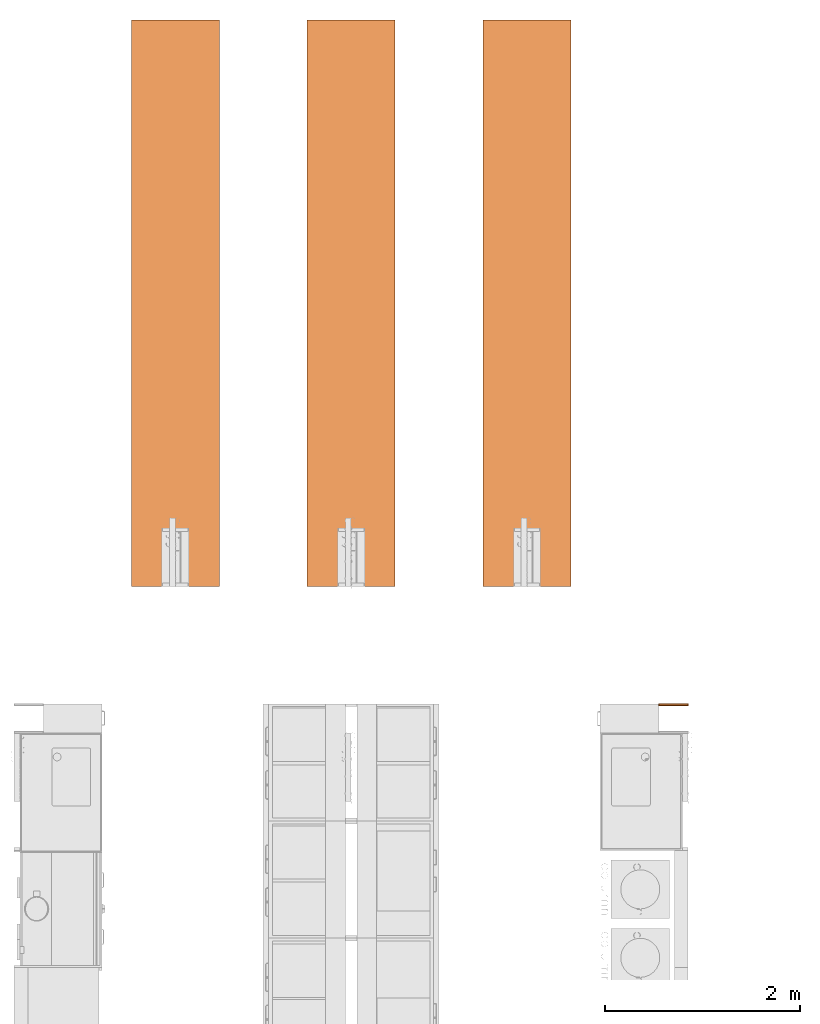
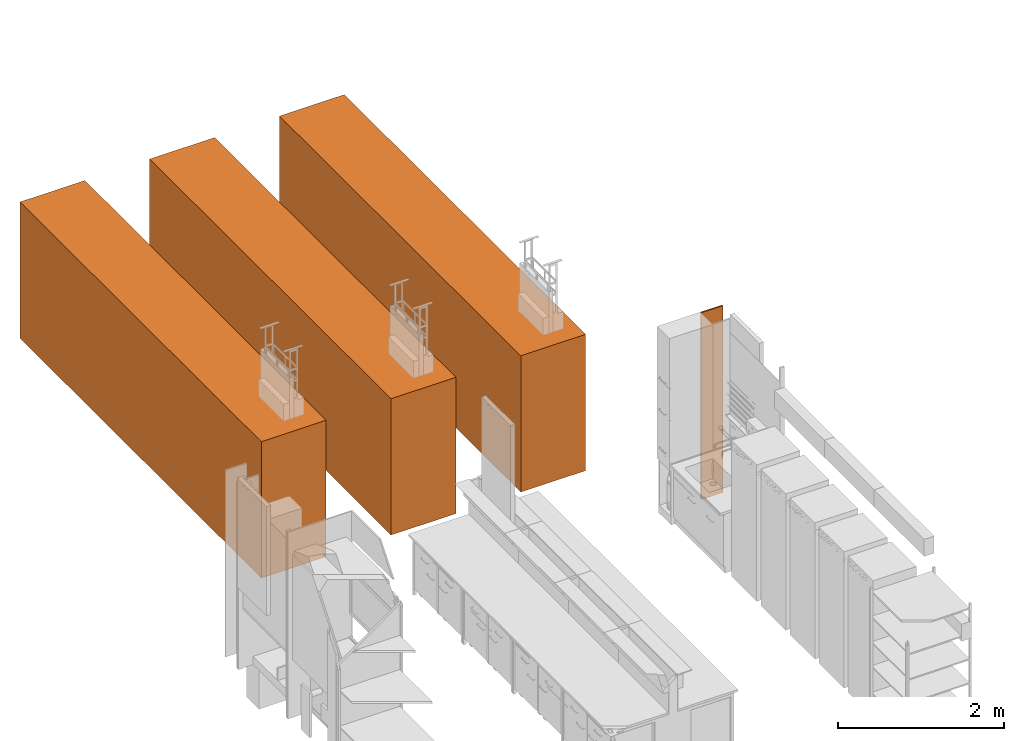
# One storey, part 26 of 43: 4 proxies.
"""IFC2X3 building model written with IfcOpenShell, lengths in metres."""

from ifc_helpers import new_model, entity, si_unit, converted_unit, derived_unit, direction, frame, origin, origin_2d_with_axis, place, context, subcontext, project, spatial, rectangle, extrude, face_set, surface_model, source, transform, mapped, material, type_object, type_shapes, element, save


model = new_model("IFC2X3")

# Units and contexts
model_context = context("Model", 3, precision=1e-05, world=origin(), true_north=direction((6.12303176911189e-17, 1.0)))
body_context = subcontext(model_context, "Body", "Model", "MODEL_VIEW")
ifc_project = project(units=[si_unit("LENGTHUNIT", "METRE"), si_unit("AREAUNIT", "SQUARE_METRE"), si_unit("VOLUMEUNIT", "CUBIC_METRE"), converted_unit("PLANEANGLEUNIT", "DEGREE", entity("IfcRatioMeasure", 0.0174532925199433), si_unit("PLANEANGLEUNIT", "RADIAN"), dimensions=[0, 0, 0, 0, 0, 0, 0]), si_unit("MASSUNIT", "GRAM", prefix="KILO"), derived_unit("MASSDENSITYUNIT", [(si_unit("MASSUNIT", "GRAM", prefix="KILO"), 1), (si_unit("LENGTHUNIT", "METRE"), -3)]), derived_unit("MOMENTOFINERTIAUNIT", [(si_unit("LENGTHUNIT", "METRE"), 4)]), si_unit("TIMEUNIT", "SECOND"), si_unit("FREQUENCYUNIT", "HERTZ"), si_unit("THERMODYNAMICTEMPERATUREUNIT", "DEGREE_CELSIUS"), derived_unit("THERMALTRANSMITTANCEUNIT", [(si_unit("MASSUNIT", "GRAM", prefix="KILO"), 1), (si_unit("THERMODYNAMICTEMPERATUREUNIT", "KELVIN"), -1), (si_unit("TIMEUNIT", "SECOND"), -3)]), derived_unit("VOLUMETRICFLOWRATEUNIT", [(si_unit("LENGTHUNIT", "METRE"), 3), (si_unit("TIMEUNIT", "SECOND"), -1)]), si_unit("ELECTRICCURRENTUNIT", "AMPERE"), si_unit("ELECTRICVOLTAGEUNIT", "VOLT"), si_unit("POWERUNIT", "WATT"), si_unit("FORCEUNIT", "NEWTON", prefix="KILO"), si_unit("ILLUMINANCEUNIT", "LUX"), si_unit("LUMINOUSFLUXUNIT", "LUMEN"), si_unit("LUMINOUSINTENSITYUNIT", "CANDELA"), derived_unit("USERDEFINED", [(si_unit("MASSUNIT", "GRAM", prefix="KILO"), -1), (si_unit("LENGTHUNIT", "METRE"), -2), (si_unit("TIMEUNIT", "SECOND"), 3), (si_unit("LUMINOUSFLUXUNIT", "LUMEN"), 1)]), derived_unit("LINEARVELOCITYUNIT", [(si_unit("LENGTHUNIT", "METRE"), 1), (si_unit("TIMEUNIT", "SECOND"), -1)]), si_unit("PRESSUREUNIT", "PASCAL"), derived_unit("USERDEFINED", [(si_unit("LENGTHUNIT", "METRE"), -2), (si_unit("MASSUNIT", "GRAM", prefix="KILO"), 1), (si_unit("TIMEUNIT", "SECOND"), -2)]), derived_unit("LINEARFORCEUNIT", [(si_unit("MASSUNIT", "GRAM", prefix="KILO"), 1), (si_unit("LENGTHUNIT", "METRE"), 1), (si_unit("TIMEUNIT", "SECOND"), -2), (si_unit("LENGTHUNIT", "METRE"), -1)]), derived_unit("PLANARFORCEUNIT", [(si_unit("MASSUNIT", "GRAM", prefix="KILO"), 1), (si_unit("LENGTHUNIT", "METRE"), 1), (si_unit("TIMEUNIT", "SECOND"), -2), (si_unit("LENGTHUNIT", "METRE"), -2)])], contexts=[model_context])

# Site, building, storey
site_placement = place(None, origin())
site = spatial("IfcSite", under=ifc_project, at=site_placement, Name="Default", CompositionType="ELEMENT")
building_placement = place(site_placement, origin())
building = spatial("IfcBuilding", under=site, at=building_placement, CompositionType="ELEMENT")
storey_placement = place(building_placement, frame((0.0, 0.0, 3.0)))
storey = spatial("IfcBuildingStorey", under=building, at=storey_placement, Name="01 OG", CompositionType="ELEMENT", Elevation=3.0)

# Proxies
ifc_material_1 = material(Name="dh_Stellfläche")
building_element_proxy_type_1 = type_object("IfcBuildingElementProxyType", Name="dh_Gerät_Stellfläche Bestand:Nutzergerät", PredefinedType="NOTDEFINED", material=ifc_material_1)
shared_shape_1 = source(origin(), body_context, "Body", "SurfaceModel", [
    surface_model("IfcFaceBasedSurfaceModel", [(-0.185556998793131, -0.561638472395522, 2.005), (-0.185556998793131, -0.559564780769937, 2.005), (-0.236887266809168, -0.559564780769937, 2.005), (-0.236887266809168, -0.460053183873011, 2.005), (-0.239012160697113, -0.460053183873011, 2.005), (-0.239012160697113, -0.561638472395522, 2.005), (-0.159290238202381, -0.51576124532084, 2.005), (-0.159290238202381, -0.519038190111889, 2.005), (-0.0736288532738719, -0.519038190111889, 2.005), (-0.0736288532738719, -0.51576124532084, 2.005), (0.00970282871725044, -0.521035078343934, 2.005), (0.00970282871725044, -0.5232623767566, 2.005), (0.0324110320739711, -0.5232623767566, 2.005), (0.0324110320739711, -0.536293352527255, 2.005), (0.0278284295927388, -0.545509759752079, 2.005), (0.018535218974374, -0.554905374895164, 2.005), (0.00944681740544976, -0.559564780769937, 2.005), (-0.00903719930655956, -0.559564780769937, 2.005), (-0.018176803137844, -0.554905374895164, 2.005), (-0.0274188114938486, -0.545509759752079, 2.005), (-0.0322062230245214, -0.536165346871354, 2.005), (-0.0367888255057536, -0.521982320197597, 2.005), (-0.0367888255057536, -0.498198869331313, 2.005), (-0.0322062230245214, -0.484015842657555, 2.005), (-0.0274188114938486, -0.47467142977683, 2.005), (-0.018176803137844, -0.465275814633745, 2.005), (-0.00903719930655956, -0.460642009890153, 2.005), (0.00944681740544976, -0.460642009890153, 2.005), (0.018535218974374, -0.465275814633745, 2.005), (0.0278284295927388, -0.47467142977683, 2.005), (0.0325390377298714, -0.484143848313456, 2.005), (0.0344591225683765, -0.483068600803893, 2.005), (0.0296973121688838, -0.473263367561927, 2.005), (0.0199176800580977, -0.46338133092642, 2.005), (0.00995884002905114, -0.458414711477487, 2.005), (-0.00962602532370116, -0.458414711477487, 2.005), (-0.0195080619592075, -0.46338133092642, 2.005), (-0.0293388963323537, -0.473263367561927, 2.005), (-0.0340495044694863, -0.483222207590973, 2.005), (-0.0389649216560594, -0.497917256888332, 2.005), (-0.0389649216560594, -0.522263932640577, 2.005), (-0.0340495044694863, -0.536984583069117, 2.005), (-0.0293388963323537, -0.546917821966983, 2.005), (-0.0195080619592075, -0.556799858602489, 2.005), (-0.00962602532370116, -0.561638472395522, 2.005), (0.00995884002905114, -0.561638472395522, 2.005), (0.0199176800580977, -0.556799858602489, 2.005), (0.0296973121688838, -0.546917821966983, 2.005), (0.0346127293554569, -0.536830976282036, 2.005), (0.0346127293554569, -0.521035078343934, 2.005), (0.106577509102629, -0.508823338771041, 2.005), (0.106577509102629, -0.506596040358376, 2.005), (0.06950707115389, -0.506596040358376, 2.005), (0.06950707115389, -0.460642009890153, 2.005), (0.130335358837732, -0.460642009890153, 2.005), (0.130335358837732, -0.458414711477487, 2.005), (0.0673821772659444, -0.458414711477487, 2.005), (0.0673821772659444, -0.561638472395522, 2.005), (0.130335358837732, -0.561638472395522, 2.005), (0.130335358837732, -0.559564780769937, 2.005), (0.06950707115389, -0.559564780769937, 2.005), (0.06950707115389, -0.508823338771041, 2.005), (0.239063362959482, -0.559999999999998, 2.005), (0.239063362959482, -0.460053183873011, 2.005), (0.236887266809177, -0.460053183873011, 2.005), (0.199970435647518, -0.55700466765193, 2.005), (0.16297680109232, -0.460053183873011, 2.005), (0.160775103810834, -0.460053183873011, 2.005), (0.160775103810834, -0.559999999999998, 2.005), (0.162899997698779, -0.559999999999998, 2.005), (0.162899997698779, -0.465890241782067, 2.005), (0.198843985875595, -0.559999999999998, 2.005), (0.201096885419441, -0.559999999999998, 2.005), (0.236938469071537, -0.465890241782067, 2.005), (0.236938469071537, -0.559999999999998, 2.005), (0.450000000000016, 0.0, 2.0), (0.450000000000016, -5.79999999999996, 2.0), (-0.450000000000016, -5.79999999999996, 2.0), (-0.450000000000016, 0.0, 2.0), (0.450000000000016, 0.0, 0.0), (0.450000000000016, -5.79999999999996, 0.0), (-0.450000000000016, -5.79999999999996, 0.0), (-0.450000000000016, 0.0, 0.0)], [face_set([[[0, 1, 2, 3, 4, 5]]]), face_set([[[6, 7, 8, 9]]]), face_set([[[10, 11, 12, 13, 14, 15, 16, 17, 18, 19, 20, 21, 22, 23, 24, 25, 26, 27, 28, 29, 30, 31, 32, 33, 34, 35, 36, 37, 38, 39, 40, 41, 42, 43, 44, 45, 46, 47, 48, 49]]]), face_set([[[50, 51, 52, 53, 54, 55, 56, 57, 58, 59, 60, 61]]]), face_set([[[62, 63, 64, 65, 66, 67, 68, 69, 70, 71, 72, 73, 74]]]), face_set([[[75, 76, 77, 78]], [[79, 80, 81, 82]], [[78, 75, 79, 82]], [[77, 78, 82, 81]], [[76, 80, 81, 77]], [[75, 76, 80, 79]]])]),
])
type_shapes(building_element_proxy_type_1, [shared_shape_1])
for number, where, name in (
    (1, (15.4, 23.324, 0.7), "dh_Gerät_Stellfläche Bestand:Nutzergerät"),
    (2, (13.6000000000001, 23.324, 0.7), "dh_Gerät_Stellfläche Bestand:Nutzergerät"),
    (3, (11.8, 23.3240000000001, 0.7), "dh_Gerät_Stellfläche Bestand:Nutzergerät"),
):
    element("IfcBuildingElementProxy", number, at=place(storey_placement, frame(where)), inside=storey, type_object=building_element_proxy_type_1, material=ifc_material_1, Name=name, ObjectType="dh_Gerät_Stellfläche Bestand:Nutzergerät", context=body_context, shape_type="MappedRepresentation", body=[
        mapped(shared_shape_1, transform((0.0, 0.0, 0.0), scale=1.0)),
    ])
ifc_material_2 = material(Name="dh_Weiß")
building_element_proxy_type_2 = type_object("IfcBuildingElementProxyType", Name="dh_Blende:dh_Blende", PredefinedType="NOTDEFINED", material=ifc_material_2)
shared_shape_2 = source(origin(), body_context, "Body", "SweptSolid", [
    extrude(rectangle(XDim=0.299999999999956, YDim=0.02, at=origin_2d_with_axis()), frame((0.0, -0.00999999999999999, 0.0), z_axis=(0.0, 0.0, 1.0), x_axis=(-1.0, 0.0, 0.0)), (0.0, 0.0, 1.0), 2.74),
])
type_shapes(building_element_proxy_type_2, [shared_shape_2])
proxy_placement = place(storey_placement, frame((16.9000000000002, 16.3240000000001, 0.7)))
element("IfcBuildingElementProxy", 4, at=proxy_placement, inside=storey, type_object=building_element_proxy_type_2, material=ifc_material_2, Name="dh_Blende:dh_Blende", ObjectType="dh_Blende:dh_Blende", context=body_context, shape_type="MappedRepresentation", body=[
    mapped(shared_shape_2, transform((0.0, 0.0, 0.0), scale=1.0)),
])

save(model, "model.ifc")
